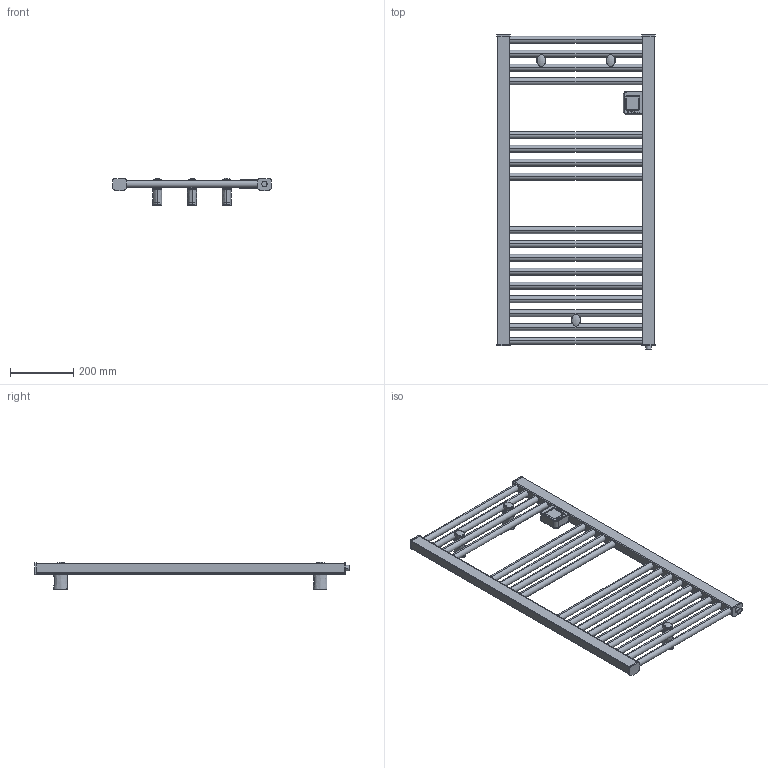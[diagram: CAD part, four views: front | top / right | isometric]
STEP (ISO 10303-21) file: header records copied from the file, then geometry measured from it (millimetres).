
FILE_DESCRIPTION((''),'2;1');
FILE_NAME('3581860150002-14_3D_SITO_ASM','2026-04-15T14:55:37',('PC104'),(''),'CREO PARAMETRIC BY PTC INC, 2025323','CREO PARAMETRIC BY PTC INC, 2025323','');
FILE_SCHEMA(('AUTOMOTIVE_DESIGN { 1 0 10303 214 1 1 1 1 }'));
Products named in the file (14): 3581860150002-14_3D_SITO; TMT_PRC_AF1; BICCHIERE_PARETE; PERNO_SCORROVOLE; PERNO_SCORREVOLE_AF3_ASM; BASETTA_ANTERIORE; 1527181430001; 1102001310058_AF3_ASM; PERNO_SCORREVOLE_AF4_ASM; 1102001310058_AF4_ASM; PERNO_SCORREVOLE_AF5_ASM; 1102001310058_AF5_ASM; 1102000000200_AF1_ASM; 3581860150002-14_3D_SITO_ASM
Assembly tree (21 placements, depth 5):
  3581860150002-14_3D_SITO_ASM
    3581860150002-14_3D_SITO
    TMT_PRC_AF1
    1102000000200_AF1_ASM
      1102001310058_AF3_ASM
        BICCHIERE_PARETE
        PERNO_SCORREVOLE_AF3_ASM
          PERNO_SCORROVOLE
        BASETTA_ANTERIORE
        1527181430001
      1102001310058_AF4_ASM
        BICCHIERE_PARETE
        PERNO_SCORREVOLE_AF4_ASM
          PERNO_SCORROVOLE
        BASETTA_ANTERIORE
        1527181430001
      1102001310058_AF5_ASM
        BICCHIERE_PARETE
        PERNO_SCORREVOLE_AF5_ASM
          PERNO_SCORROVOLE
        BASETTA_ANTERIORE
        1527181430001
Bounding box: 503.5 x 997 x 86.47 mm (x, y, z)
Volume: 5447307.8 mm3; surface area: 886418 mm2
Topology: 25 solids, 25 shells, 4248 faces, 10481 edges, 6335 vertices
Faces by surface type: cylinder 1702, plane 756, torus 648, sphere 570, bspline 486, extrusion 56, cone 30
Entity records: 97165 total; most frequent: CARTESIAN_POINT 28672, DIRECTION 9773, ORIENTED_EDGE 7062, PRESENTATION_STYLE_ASSIGNMENT 4847, STYLED_ITEM 4845, CURVE_STYLE 4828, EDGE_CURVE 3531, AXIS2_PLACEMENT_3D 3481
